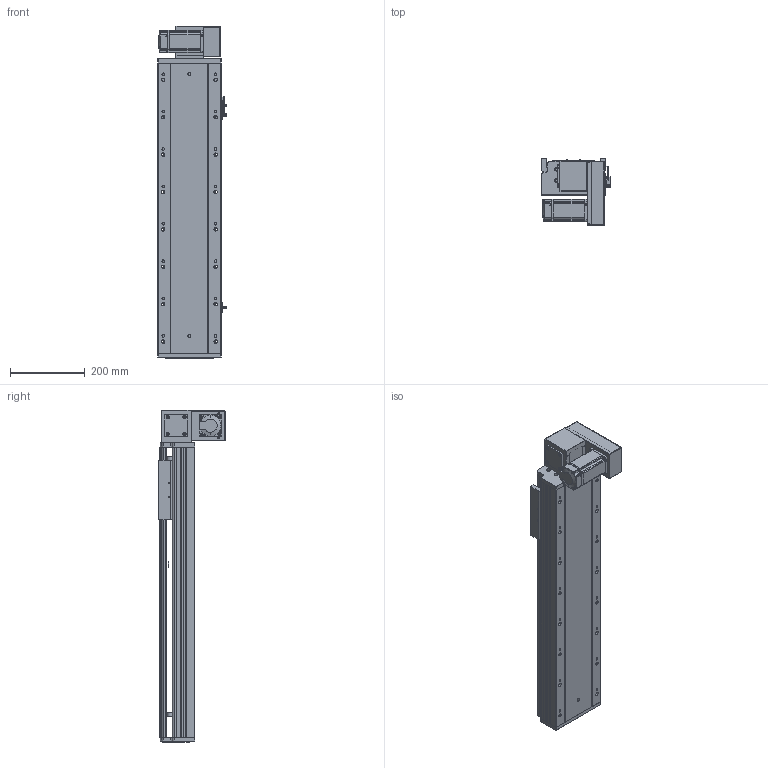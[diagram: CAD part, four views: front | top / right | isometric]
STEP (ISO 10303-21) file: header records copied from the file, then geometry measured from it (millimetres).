
FILE_DESCRIPTION (( 'STEP AP203' ), '1' );
FILE_NAME ('RY170-T-300-DR-P400W.SLDASM_500.step', '2021-03-01T08:22:49', ( '盈信电脑' ), ( '东莞市道滘镇水果街19号' ), 'SwSTEP 2.0', 'SolidWorks 2012', '' );
FILE_SCHEMA (( 'CONFIG_CONTROL_DESIGN' ));
Length unit declared in the file: millimetre
Products named in the file (19): RY170-T-300-DR-P400W.SLDASM_500; 15; RY170-T肮祭謫裔啣; RY120-T主同步轮轴承压盖; RY170-T肮祭湍揤踡輸2; RY170-T肮祭湍揤踡輸1; RY170肮祭謫萇儂欶; RY170同步轮电机安装板(400W); RY170翋肮祭謫釱; RY170肮祭謫ヶ裔啣; RY170外置感应片(200共用）; RY170綴裔啣; 覜茼ん672; RY170肮祭湍臏賑輸; RY170-T-300肮祭謫倰第裔啣-DR_500; RY170-T-300肮祭謫倰第菁釱-DR_500; RY170-T蹟翐M4; RY170-T-呴雄粣揤踡啣; 滅袉蝶18-10
Assembly tree (23 placements, depth 2):
  RY170-T-300-DR-P400W.SLDASM_500
    RY170-T-300肮祭謫倰第菁釱-DR_500
    RY170肮祭湍臏賑輸
    RY170-T-300肮祭謫倰第裔啣-DR_500
    RY170綴裔啣
    覜茼ん672  x3
    RY170外置感应片(200共用）
    RY170肮祭謫ヶ裔啣
    RY170翋肮祭謫釱
    RY170同步轮电机安装板(400W)
    RY170肮祭謫萇儂欶
    RY170-T肮祭湍揤踡輸1  x2
    RY170-T肮祭湍揤踡輸2  x2
    RY120-T主同步轮轴承压盖
    RY170-T肮祭謫裔啣
    RY170-T蹟翐M4
    滅袉蝶18-10  x2
    RY170-T-呴雄粣揤踡啣
    15
Bounding box: 183.7 x 178 x 888 mm (x, y, z)
Volume: 4818765 mm3; surface area: 1609013.8 mm2
Topology: 23 solids, 23 shells, 2710 faces, 7546 edges, 4869 vertices
Faces by surface type: plane 1266, cylinder 1210, cone 204, bspline 30
Entity records: 81285 total; most frequent: CARTESIAN_POINT 18230, ORIENTED_EDGE 12864, DIRECTION 12578, EDGE_CURVE 6432, AXIS2_PLACEMENT_3D 4407, VERTEX_POINT 4225, LINE 3764, VECTOR 3764
